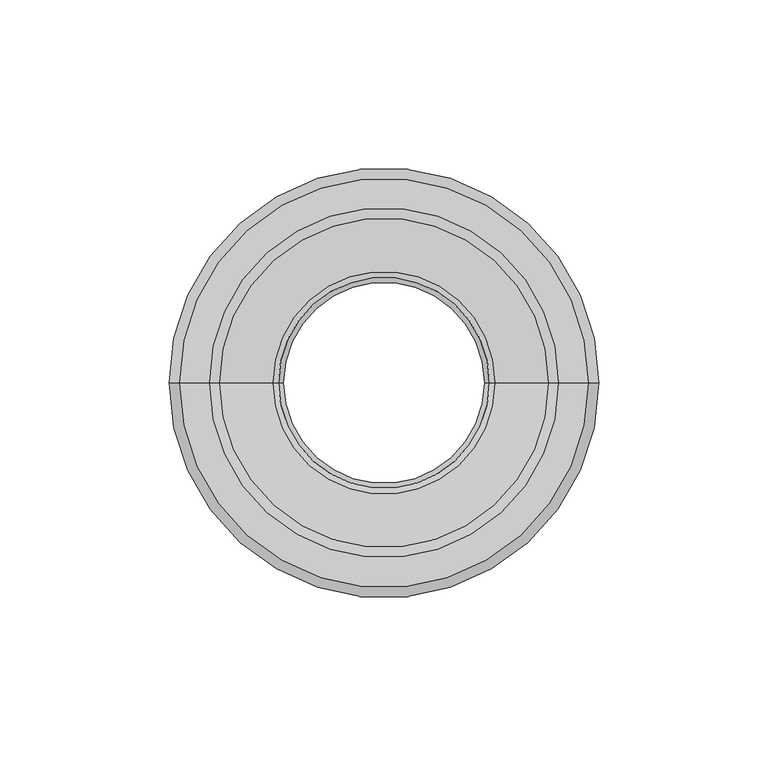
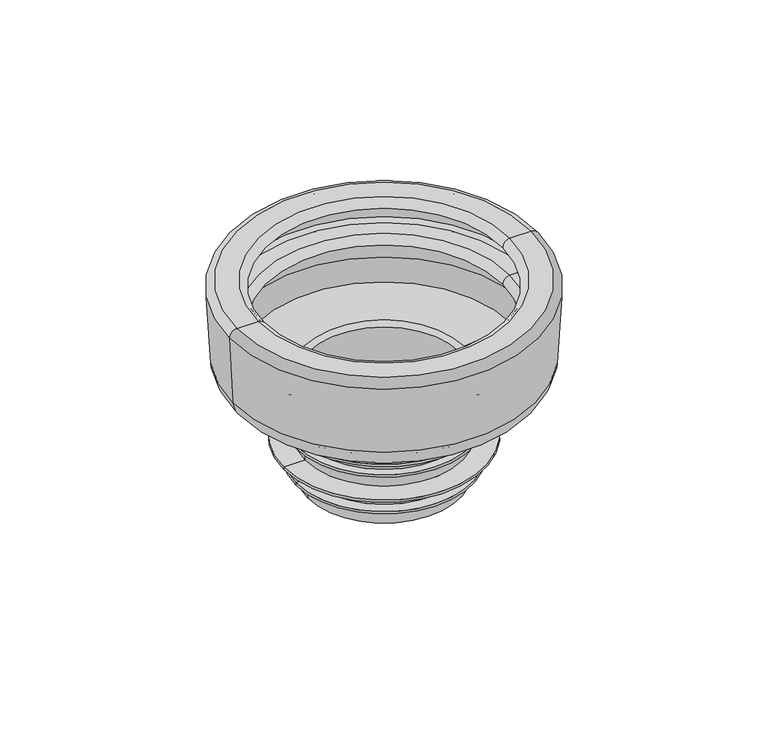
"""IFC4 building model written with IfcOpenShell, lengths in millimetres: sanitary terminal geometry, RSen_52_PIF_UN_closet connector no.5_wisa : closet connector_wisa_no 5 white."""

from ifc_helpers import new_model, si_unit, point, frame, origin, place, context, project, spatial, polyline, circle_curve, ellipse_curve, trimmed, source, transform, mapped, element, save
from ifc_brep_helpers import plane_surface, cylinder_surface, revolved_surface, advanced_brep


def sanitary_terminal_d6526a82(model_context):
    return source(origin(), model_context, "Body", "AdvancedBrep", [
        advanced_brep(
        [(-63.5845482, 0.0, -0.1570079), (63.5845482, 0.0, -0.1570079), (62.0952036, 0.0, -28.5753971), (-62.0952036, 0.0, -28.5753971), (-60.5886596, 0.0, 3.0), (60.5886596, 0.0, 3.0), (-51.75, 0.0, 3.0), (51.75, 0.0, 3.0), (-48.75, 0.0, 0.0), (48.75, 0.0, 0.0), (-49.55, 0.0, 0.0), (49.55, 0.0, 0.0), (-52.1491511, 0.0, 2.4665023), (52.1491511, 0.0, 2.4665023), (-59.2332885, 0.0, 2.0952384), (59.2332885, 0.0, 2.0952384), (-60.6178768, 0.0, 0.5574973), (60.6178768, 0.0, 0.5574973), (-59.9827203, 0.0, -11.5620101), (59.9827203, 0.0, -11.5620101), (-58.4673952, 0.0, -13.0), (58.4673952, 0.0, -13.0), (-51.75, 0.0, -13.0), (51.75, 0.0, -13.0), (-48.75, 0.0, -16.0), (48.75, 0.0, -16.0), (-49.55, 0.0, -16.0), (49.55, 0.0, -16.0), (-52.1491511, 0.0, -13.5334977), (52.1491511, 0.0, -13.5334977), (-58.3410591, 0.0, -13.8580018), (58.3410591, 0.0, -13.8580018), (-59.7787142, 0.0, -15.4546796), (59.7787142, 0.0, -15.4546796), (-59.099315, 0.0, -28.4183893), (59.099315, 0.0, -28.4183893), (-52.9619936, 0.0, -34.9998606), (52.9619936, 0.0, -34.9998606), (-32.9547984, 0.0, -37.4564353), (32.9547984, 0.0, -37.4564353), (-31.2038472, 0.0, -39.3672632), (31.2038472, 0.0, -39.3672632), (-29.75, 0.0, -81.0), (29.75, 0.0, -81.0), (-31.25, 0.0, -81.0), (31.25, 0.0, -81.0), (-31.25, 0.0, -73.5), (31.25, 0.0, -73.5), (-36.25, 0.0, -73.5), (36.25, 0.0, -73.5), (-36.25, 0.0, -72.5), (36.25, 0.0, -72.5), (-31.75, 0.0, -72.5), (31.75, 0.0, -72.5), (-31.75, 0.0, -65.0), (31.75, 0.0, -65.0), (-41.25, 0.0, -65.0), (41.25, 0.0, -65.0), (-41.25, 0.0, -64.0), (41.25, 0.0, -64.0), (-32.5, 0.0, -64.0), (32.5, 0.0, -64.0), (-32.5, 0.0, -57.5), (32.5, 0.0, -57.5), (-36.25, 0.0, -57.5), (36.25, 0.0, -57.5), (-36.25, 0.0, -56.5), (36.25, 0.0, -56.5), (-32.95, 0.0, -56.5), (32.95, 0.0, -56.5), (-32.95, 0.0, -49.5), (32.95, 0.0, -49.5), (-41.25, 0.0, -49.5), (41.25, 0.0, -49.5), (-41.25, 0.0, -48.5), (41.25, 0.0, -48.5), (-33.25, 0.0, -48.5), (33.25, 0.0, -48.5), (-33.25, 0.0, -43.0), (33.25, 0.0, -43.0), (-36.25, 0.0, -40.0), (36.25, 0.0, -40.0), (-45.0, 0.0, -40.0), (45.0, 0.0, -40.0), (-45.0, 0.0, -39.0), (45.0, 0.0, -39.0), (-53.3276016, 0.0, -37.9774991), (53.3276016, 0.0, -37.9774991)],
        [
            (0, 1, circle_curve(frame((0.0, 0.0, -0.1570079), z_axis=(0.0, 0.0, -1.0), x_axis=(1.0, 0.0, 0.0)), 63.5845482)),
            (1, 2),
            (2, 3, circle_curve(frame((0.0, 0.0, -28.5753971), z_axis=(0.0, 0.0, 1.0), x_axis=(1.0, 0.0, 0.0)), 62.0952036)),
            (3, 0),
            (1, 0, circle_curve(frame((0.0, 0.0, -0.1570079), z_axis=(0.0, 0.0, -1.0), x_axis=(1.0, 0.0, 0.0)), 63.5845482)),
            (3, 2, circle_curve(frame((0.0, 0.0, -28.5753971), z_axis=(0.0, 0.0, 1.0), x_axis=(1.0, 0.0, 0.0)), 62.0952036)),
            (4, 5, circle_curve(frame((0.0, 0.0, 3.0), z_axis=(0.0, 0.0, -1.0), x_axis=(1.0, 0.0, 0.0)), 60.5886596)),
            (5, 1, circle_curve(frame((60.5886596, 0.0, 0.0), z_axis=(0.0, 1.0, 0.0), x_axis=(1.0, 0.0, 0.0)), 3.0)),
            (0, 4, circle_curve(frame((-60.5886596, 0.0, 0.0), z_axis=(0.0, 1.0, 0.0), x_axis=(-1.0, 0.0, 0.0)), 3.0)),
            (5, 4, circle_curve(frame((0.0, 0.0, 3.0), z_axis=(0.0, 0.0, -1.0), x_axis=(1.0, 0.0, 0.0)), 60.5886596)),
            (6, 7, circle_curve(frame((0.0, 0.0, 3.0), z_axis=(0.0, 0.0, -1.0), x_axis=(1.0, 0.0, 0.0)), 51.75)),
            (7, 5),
            (4, 6),
            (7, 6, circle_curve(frame((0.0, 0.0, 3.0), z_axis=(0.0, 0.0, -1.0), x_axis=(1.0, 0.0, 0.0)), 51.75)),
            (8, 9, circle_curve(frame((0.0, 0.0, 0.0), z_axis=(0.0, 0.0, -1.0), x_axis=(1.0, 0.0, 0.0)), 48.75)),
            (9, 7, circle_curve(frame((51.75, 0.0, 0.0), z_axis=(0.0, 1.0, 0.0), x_axis=(1.0, 0.0, 0.0)), 3.0)),
            (6, 8, circle_curve(frame((-51.75, 0.0, 0.0), z_axis=(0.0, 1.0, 0.0), x_axis=(-1.0, 0.0, 0.0)), 3.0)),
            (9, 8, circle_curve(frame((0.0, 0.0, 0.0), z_axis=(0.0, 0.0, -1.0), x_axis=(1.0, 0.0, 0.0)), 48.75)),
            (10, 11, circle_curve(frame((0.0, 0.0, 0.0), z_axis=(0.0, 0.0, -1.0), x_axis=(1.0, 0.0, 0.0)), 49.55)),
            (11, 9),
            (8, 10),
            (11, 10, circle_curve(frame((0.0, 0.0, 0.0), z_axis=(0.0, 0.0, -1.0), x_axis=(1.0, 0.0, 0.0)), 49.55)),
            (12, 13, circle_curve(frame((0.0, 0.0, 2.4665023), z_axis=(0.0, 0.0, -1.0), x_axis=(1.0, 0.0, 0.0)), 52.1491511)),
            (13, 11, circle_curve(frame((52.0198872, 0.0, 0.0), z_axis=(0.0, -1.0, 0.0), x_axis=(1.0, 0.0, 0.0)), 2.4698872)),
            (10, 12, circle_curve(frame((-52.0198872, 0.0, 0.0), z_axis=(0.0, -1.0, 0.0), x_axis=(-1.0, 0.0, 0.0)), 2.4698872)),
            (13, 12, circle_curve(frame((0.0, 0.0, 2.4665023), z_axis=(0.0, 0.0, -1.0), x_axis=(1.0, 0.0, 0.0)), 52.1491511)),
            (14, 15, circle_curve(frame((0.0, 0.0, 2.0952384), z_axis=(0.0, 0.0, -1.0), x_axis=(1.0, 0.0, 0.0)), 59.2332885)),
            (15, 13),
            (12, 14),
            (15, 14, circle_curve(frame((0.0, 0.0, 2.0952384), z_axis=(0.0, 0.0, -1.0), x_axis=(1.0, 0.0, 0.0)), 59.2332885)),
            (16, 17, circle_curve(frame((0.0, 0.0, 0.5574973), z_axis=(0.0, 0.0, -1.0), x_axis=(1.0, 0.0, 0.0)), 60.6178768)),
            (17, 15, circle_curve(frame((59.1567121, 0.0, 0.6340737), z_axis=(0.0, -1.0, 0.0), x_axis=(1.0, 0.0, 0.0)), 1.46317)),
            (14, 16, circle_curve(frame((-59.1567121, 0.0, 0.6340737), z_axis=(0.0, -1.0, 0.0), x_axis=(-1.0, 0.0, 0.0)), 1.46317)),
            (17, 16, circle_curve(frame((0.0, 0.0, 0.5574973), z_axis=(0.0, 0.0, -1.0), x_axis=(1.0, 0.0, 0.0)), 60.6178768)),
            (18, 19, circle_curve(frame((0.0, 0.0, -11.5620101), z_axis=(0.0, 0.0, -1.0), x_axis=(1.0, 0.0, 0.0)), 59.9827203)),
            (19, 17),
            (16, 18),
            (19, 18, circle_curve(frame((0.0, 0.0, -11.5620101), z_axis=(0.0, 0.0, -1.0), x_axis=(1.0, 0.0, 0.0)), 59.9827203)),
            (20, 21, circle_curve(frame((0.0, 0.0, -13.0), z_axis=(0.0, 0.0, -1.0), x_axis=(1.0, 0.0, 0.0)), 58.4673952)),
            (21, 19, circle_curve(frame((58.4673952, 0.0, -11.4825953), z_axis=(0.0, -1.0, 0.0), x_axis=(1.0, 0.0, 0.0)), 1.5174047)),
            (18, 20, circle_curve(frame((-58.4673952, 0.0, -11.4825953), z_axis=(0.0, -1.0, 0.0), x_axis=(-1.0, 0.0, 0.0)), 1.5174047)),
            (21, 20, circle_curve(frame((0.0, 0.0, -13.0), z_axis=(0.0, 0.0, -1.0), x_axis=(1.0, 0.0, 0.0)), 58.4673952)),
            (22, 23, circle_curve(frame((0.0, 0.0, -13.0), z_axis=(0.0, 0.0, -1.0), x_axis=(1.0, 0.0, 0.0)), 51.75)),
            (23, 21),
            (20, 22),
            (23, 22, circle_curve(frame((0.0, 0.0, -13.0), z_axis=(0.0, 0.0, -1.0), x_axis=(1.0, 0.0, 0.0)), 51.75)),
            (24, 25, circle_curve(frame((0.0, 0.0, -16.0), z_axis=(0.0, 0.0, -1.0), x_axis=(1.0, 0.0, 0.0)), 48.75)),
            (25, 23, circle_curve(frame((51.75, 0.0, -16.0), z_axis=(0.0, 1.0, 0.0), x_axis=(1.0, 0.0, 0.0)), 3.0)),
            (22, 24, circle_curve(frame((-51.75, 0.0, -16.0), z_axis=(0.0, 1.0, 0.0), x_axis=(-1.0, 0.0, 0.0)), 3.0)),
            (25, 24, circle_curve(frame((0.0, 0.0, -16.0), z_axis=(0.0, 0.0, -1.0), x_axis=(1.0, 0.0, 0.0)), 48.75)),
            (26, 27, circle_curve(frame((0.0, 0.0, -16.0), z_axis=(0.0, 0.0, -1.0), x_axis=(1.0, 0.0, 0.0)), 49.55)),
            (27, 25),
            (24, 26),
            (27, 26, circle_curve(frame((0.0, 0.0, -16.0), z_axis=(0.0, 0.0, -1.0), x_axis=(1.0, 0.0, 0.0)), 49.55)),
            (28, 29, circle_curve(frame((0.0, 0.0, -13.5334977), z_axis=(0.0, 0.0, -1.0), x_axis=(1.0, 0.0, 0.0)), 52.1491511)),
            (29, 27, circle_curve(frame((52.0198872, 0.0, -16.0), z_axis=(0.0, -1.0, 0.0), x_axis=(1.0, 0.0, 0.0)), 2.4698872)),
            (26, 28, circle_curve(frame((-52.0198872, 0.0, -16.0), z_axis=(0.0, -1.0, 0.0), x_axis=(-1.0, 0.0, 0.0)), 2.4698872)),
            (29, 28, circle_curve(frame((0.0, 0.0, -13.5334977), z_axis=(0.0, 0.0, -1.0), x_axis=(1.0, 0.0, 0.0)), 52.1491511)),
            (30, 31, circle_curve(frame((0.0, 0.0, -13.8580018), z_axis=(0.0, 0.0, -1.0), x_axis=(1.0, 0.0, 0.0)), 58.3410591)),
            (31, 29),
            (28, 30),
            (31, 30, circle_curve(frame((0.0, 0.0, -13.8580018), z_axis=(0.0, 0.0, -1.0), x_axis=(1.0, 0.0, 0.0)), 58.3410591)),
            (32, 33, circle_curve(frame((0.0, 0.0, -15.4546796), z_axis=(0.0, 0.0, -1.0), x_axis=(1.0, 0.0, 0.0)), 59.7787142)),
            (33, 31, circle_curve(frame((58.2615477, 0.0, -15.3751683), z_axis=(0.0, -1.0, 0.0), x_axis=(1.0, 0.0, 0.0)), 1.5192485)),
            (30, 32, circle_curve(frame((-58.2615477, 0.0, -15.3751683), z_axis=(0.0, -1.0, 0.0), x_axis=(-1.0, 0.0, 0.0)), 1.5192485)),
            (33, 32, circle_curve(frame((0.0, 0.0, -15.4546796), z_axis=(0.0, 0.0, -1.0), x_axis=(1.0, 0.0, 0.0)), 59.7787142)),
            (34, 35, circle_curve(frame((0.0, 0.0, -28.4183893), z_axis=(0.0, 0.0, -1.0), x_axis=(1.0, 0.0, 0.0)), 59.099315)),
            (35, 33),
            (32, 34),
            (35, 34, circle_curve(frame((0.0, 0.0, -28.4183893), z_axis=(0.0, 0.0, -1.0), x_axis=(1.0, 0.0, 0.0)), 59.099315)),
            (36, 37, circle_curve(frame((0.0, 0.0, -34.9998606), z_axis=(0.0, 0.0, -1.0), x_axis=(1.0, 0.0, 0.0)), 52.9619936)),
            (37, 35, circle_curve(frame((52.1089082, 0.0, -28.0520376), z_axis=(0.0, -1.0, 0.0), x_axis=(1.0, 0.0, 0.0)), 7.0)),
            (34, 36, circle_curve(frame((-52.1089082, 0.0, -28.0520376), z_axis=(0.0, -1.0, 0.0), x_axis=(-1.0, 0.0, 0.0)), 7.0)),
            (37, 36, circle_curve(frame((0.0, 0.0, -34.9998606), z_axis=(0.0, 0.0, -1.0), x_axis=(1.0, 0.0, 0.0)), 52.9619936)),
            (38, 39, circle_curve(frame((0.0, 0.0, -37.4564353), z_axis=(0.0, 0.0, -1.0), x_axis=(1.0, 0.0, 0.0)), 32.9547984)),
            (39, 37),
            (36, 38),
            (39, 38, circle_curve(frame((0.0, 0.0, -37.4564353), z_axis=(0.0, 0.0, -1.0), x_axis=(1.0, 0.0, 0.0)), 32.9547984)),
            (40, 41, circle_curve(frame((0.0, 0.0, -39.3672632), z_axis=(0.0, 0.0, -1.0), x_axis=(1.0, 0.0, 0.0)), 31.2038472)),
            (41, 39, circle_curve(frame((33.1979688, 0.0, -39.4368995), z_axis=(0.0, 1.0, 0.0), x_axis=(1.0, 0.0, 0.0)), 1.9953371)),
            (38, 40, circle_curve(frame((-33.1979688, 0.0, -39.4368995), z_axis=(0.0, 1.0, 0.0), x_axis=(-1.0, 0.0, 0.0)), 1.9953371)),
            (41, 40, circle_curve(frame((0.0, 0.0, -39.3672632), z_axis=(0.0, 0.0, -1.0), x_axis=(1.0, 0.0, 0.0)), 31.2038472)),
            (42, 43, circle_curve(frame((0.0, 0.0, -81.0), z_axis=(0.0, 0.0, -1.0), x_axis=(1.0, 0.0, 0.0)), 29.75)),
            (43, 41),
            (40, 42),
            (43, 42, circle_curve(frame((0.0, 0.0, -81.0), z_axis=(0.0, 0.0, -1.0), x_axis=(1.0, 0.0, 0.0)), 29.75)),
            (44, 45, circle_curve(frame((0.0, 0.0, -81.0), z_axis=(0.0, 0.0, -1.0), x_axis=(1.0, 0.0, 0.0)), 31.25)),
            (45, 43),
            (42, 44),
            (45, 44, circle_curve(frame((0.0, 0.0, -81.0), z_axis=(0.0, 0.0, -1.0), x_axis=(1.0, 0.0, 0.0)), 31.25)),
            (46, 47, circle_curve(frame((0.0, 0.0, -73.5), z_axis=(0.0, 0.0, -1.0), x_axis=(1.0, 0.0, 0.0)), 31.25)),
            (47, 45),
            (44, 46),
            (47, 46, circle_curve(frame((0.0, 0.0, -73.5), z_axis=(0.0, 0.0, -1.0), x_axis=(1.0, 0.0, 0.0)), 31.25)),
            (48, 49, circle_curve(frame((0.0, 0.0, -73.5), z_axis=(0.0, 0.0, -1.0), x_axis=(1.0, 0.0, 0.0)), 36.25)),
            (49, 47),
            (46, 48),
            (49, 48, circle_curve(frame((0.0, 0.0, -73.5), z_axis=(0.0, 0.0, -1.0), x_axis=(1.0, 0.0, 0.0)), 36.25)),
            (50, 51, circle_curve(frame((0.0, 0.0, -72.5), z_axis=(0.0, 0.0, -1.0), x_axis=(1.0, 0.0, 0.0)), 36.25)),
            (51, 49),
            (48, 50),
            (51, 50, circle_curve(frame((0.0, 0.0, -72.5), z_axis=(0.0, 0.0, -1.0), x_axis=(1.0, 0.0, 0.0)), 36.25)),
            (52, 53, circle_curve(frame((0.0, 0.0, -72.5), z_axis=(0.0, 0.0, -1.0), x_axis=(1.0, 0.0, 0.0)), 31.75)),
            (53, 51),
            (50, 52),
            (53, 52, circle_curve(frame((0.0, 0.0, -72.5), z_axis=(0.0, 0.0, -1.0), x_axis=(1.0, 0.0, 0.0)), 31.75)),
            (54, 55, circle_curve(frame((0.0, 0.0, -65.0), z_axis=(0.0, 0.0, -1.0), x_axis=(1.0, 0.0, 0.0)), 31.75)),
            (55, 53),
            (52, 54),
            (55, 54, circle_curve(frame((0.0, 0.0, -65.0), z_axis=(0.0, 0.0, -1.0), x_axis=(1.0, 0.0, 0.0)), 31.75)),
            (56, 57, circle_curve(frame((0.0, 0.0, -65.0), z_axis=(0.0, 0.0, -1.0), x_axis=(1.0, 0.0, 0.0)), 41.25)),
            (57, 55),
            (54, 56),
            (57, 56, circle_curve(frame((0.0, 0.0, -65.0), z_axis=(0.0, 0.0, -1.0), x_axis=(1.0, 0.0, 0.0)), 41.25)),
            (58, 59, circle_curve(frame((0.0, 0.0, -64.0), z_axis=(0.0, 0.0, -1.0), x_axis=(1.0, 0.0, 0.0)), 41.25)),
            (59, 57),
            (56, 58),
            (59, 58, circle_curve(frame((0.0, 0.0, -64.0), z_axis=(0.0, 0.0, -1.0), x_axis=(1.0, 0.0, 0.0)), 41.25)),
            (60, 61, circle_curve(frame((0.0, 0.0, -64.0), z_axis=(0.0, 0.0, -1.0), x_axis=(1.0, 0.0, 0.0)), 32.5)),
            (61, 59),
            (58, 60),
            (61, 60, circle_curve(frame((0.0, 0.0, -64.0), z_axis=(0.0, 0.0, -1.0), x_axis=(1.0, 0.0, 0.0)), 32.5)),
            (62, 63, circle_curve(frame((0.0, 0.0, -57.5), z_axis=(0.0, 0.0, -1.0), x_axis=(1.0, 0.0, 0.0)), 32.5)),
            (63, 61),
            (60, 62),
            (63, 62, circle_curve(frame((0.0, 0.0, -57.5), z_axis=(0.0, 0.0, -1.0), x_axis=(1.0, 0.0, 0.0)), 32.5)),
            (64, 65, circle_curve(frame((0.0, 0.0, -57.5), z_axis=(0.0, 0.0, -1.0), x_axis=(1.0, 0.0, 0.0)), 36.25)),
            (65, 63),
            (62, 64),
            (65, 64, circle_curve(frame((0.0, 0.0, -57.5), z_axis=(0.0, 0.0, -1.0), x_axis=(1.0, 0.0, 0.0)), 36.25)),
            (66, 67, circle_curve(frame((0.0, 0.0, -56.5), z_axis=(0.0, 0.0, -1.0), x_axis=(1.0, 0.0, 0.0)), 36.25)),
            (67, 65),
            (64, 66),
            (67, 66, circle_curve(frame((0.0, 0.0, -56.5), z_axis=(0.0, 0.0, -1.0), x_axis=(1.0, 0.0, 0.0)), 36.25)),
            (68, 69, circle_curve(frame((0.0, 0.0, -56.5), z_axis=(0.0, 0.0, -1.0), x_axis=(1.0, 0.0, 0.0)), 32.95)),
            (69, 67),
            (66, 68),
            (69, 68, circle_curve(frame((0.0, 0.0, -56.5), z_axis=(0.0, 0.0, -1.0), x_axis=(1.0, 0.0, 0.0)), 32.95)),
            (70, 71, circle_curve(frame((0.0, 0.0, -49.5), z_axis=(0.0, 0.0, -1.0), x_axis=(1.0, 0.0, 0.0)), 32.95)),
            (71, 69),
            (68, 70),
            (71, 70, circle_curve(frame((0.0, 0.0, -49.5), z_axis=(0.0, 0.0, -1.0), x_axis=(1.0, 0.0, 0.0)), 32.95)),
            (72, 73, circle_curve(frame((0.0, 0.0, -49.5), z_axis=(0.0, 0.0, -1.0), x_axis=(1.0, 0.0, 0.0)), 41.25)),
            (73, 71),
            (70, 72),
            (73, 72, circle_curve(frame((0.0, 0.0, -49.5), z_axis=(0.0, 0.0, -1.0), x_axis=(1.0, 0.0, 0.0)), 41.25)),
            (74, 75, circle_curve(frame((0.0, 0.0, -48.5), z_axis=(0.0, 0.0, -1.0), x_axis=(1.0, 0.0, 0.0)), 41.25)),
            (75, 73),
            (72, 74),
            (75, 74, circle_curve(frame((0.0, 0.0, -48.5), z_axis=(0.0, 0.0, -1.0), x_axis=(1.0, 0.0, 0.0)), 41.25)),
            (76, 77, circle_curve(frame((0.0, 0.0, -48.5), z_axis=(0.0, 0.0, -1.0), x_axis=(1.0, 0.0, 0.0)), 33.25)),
            (77, 75),
            (74, 76),
            (77, 76, circle_curve(frame((0.0, 0.0, -48.5), z_axis=(0.0, 0.0, -1.0), x_axis=(1.0, 0.0, 0.0)), 33.25)),
            (78, 79, circle_curve(frame((0.0, 0.0, -43.0), z_axis=(0.0, 0.0, -1.0), x_axis=(1.0, 0.0, 0.0)), 33.25)),
            (79, 77),
            (76, 78),
            (79, 78, circle_curve(frame((0.0, 0.0, -43.0), z_axis=(0.0, 0.0, -1.0), x_axis=(1.0, 0.0, 0.0)), 33.25)),
            (80, 81, circle_curve(frame((0.0, 0.0, -40.0), z_axis=(0.0, 0.0, -1.0), x_axis=(1.0, 0.0, 0.0)), 36.25)),
            (81, 79, circle_curve(frame((36.25, 0.0, -43.0), z_axis=(0.0, -1.0, 0.0), x_axis=(1.0, 0.0, 0.0)), 3.0)),
            (78, 80, circle_curve(frame((-36.25, 0.0, -43.0), z_axis=(0.0, -1.0, 0.0), x_axis=(-1.0, 0.0, 0.0)), 3.0)),
            (81, 80, circle_curve(frame((0.0, 0.0, -40.0), z_axis=(0.0, 0.0, -1.0), x_axis=(1.0, 0.0, 0.0)), 36.25)),
            (82, 83, circle_curve(frame((0.0, 0.0, -40.0), z_axis=(0.0, 0.0, -1.0), x_axis=(1.0, 0.0, 0.0)), 45.0)),
            (83, 81),
            (80, 82),
            (83, 82, circle_curve(frame((0.0, 0.0, -40.0), z_axis=(0.0, 0.0, -1.0), x_axis=(1.0, 0.0, 0.0)), 45.0)),
            (84, 85, circle_curve(frame((0.0, 0.0, -39.0), z_axis=(0.0, 0.0, -1.0), x_axis=(1.0, 0.0, 0.0)), 45.0)),
            (85, 83),
            (82, 84),
            (85, 84, circle_curve(frame((0.0, 0.0, -39.0), z_axis=(0.0, 0.0, -1.0), x_axis=(1.0, 0.0, 0.0)), 45.0)),
            (86, 87, circle_curve(frame((0.0, 0.0, -37.9774991), z_axis=(0.0, 0.0, -1.0), x_axis=(1.0, 0.0, 0.0)), 53.3276016)),
            (87, 85),
            (84, 86),
            (87, 86, circle_curve(frame((0.0, 0.0, -37.9774991), z_axis=(0.0, 0.0, -1.0), x_axis=(1.0, 0.0, 0.0)), 53.3276016)),
            (2, 87, circle_curve(frame((52.1089082, 0.0, -28.0520376), z_axis=(0.0, 1.0, 0.0), x_axis=(1.0, 0.0, 0.0)), 10.0)),
            (86, 3, circle_curve(frame((-52.1089082, 0.0, -28.0520376), z_axis=(0.0, 1.0, 0.0), x_axis=(-1.0, 0.0, 0.0)), 10.0)),
        ],
        [
            revolved_surface(polyline([(62.0952036, 0.0, -28.5753971), (63.5845482, 0.0, -0.1570079)]), (0.0, 0.0, 3.0), (0.0, 0.0, 1.0)),
            revolved_surface(trimmed(ellipse_curve(frame((60.5886596, 0.0, 0.0), z_axis=(0.0, -1.0, 0.0), x_axis=(1.0, 0.0, 0.0)), 3.0, 3.0), [point((63.5845482, 0.0, -0.1570079))], [point((60.5886596, 0.0, 3.0))], True, "CARTESIAN"), (0.0, 0.0, 3.0), (0.0, 0.0, 1.0)),
            plane_surface(frame((0.0, 0.0, 3.0), z_axis=(0.0, 0.0, 1.0), x_axis=(1.0, 0.0, 0.0))),
            revolved_surface(trimmed(ellipse_curve(frame((51.75, 0.0, 0.0), z_axis=(0.0, -1.0, 0.0), x_axis=(1.0, 0.0, 0.0)), 3.0, 3.0), [point((51.75, 0.0, 3.0))], [point((48.75, 0.0, 0.0))], True, "CARTESIAN"), (0.0, 0.0, 3.0), (0.0, 0.0, 1.0)),
            plane_surface(frame((0.0, 0.0, 0.0), z_axis=(0.0, 0.0, -1.0), x_axis=(1.0, 0.0, 0.0))),
            revolved_surface(trimmed(ellipse_curve(frame((52.0198872, 0.0, 0.0), z_axis=(0.0, 1.0, 0.0), x_axis=(1.0, 0.0, 0.0)), 2.4698872, 2.4698872), [point((49.55, 0.0, 0.0))], [point((52.1491511, 0.0, 2.4665023))], True, "CARTESIAN"), (0.0, 0.0, 3.0), (0.0, 0.0, 1.0)),
            revolved_surface(polyline([(52.1491511, 0.0, 2.4665023), (59.2332885, 0.0, 2.0952384)]), (0.0, 0.0, 3.0), (0.0, 0.0, 1.0)),
            revolved_surface(trimmed(ellipse_curve(frame((59.1567121, 0.0, 0.6340737), z_axis=(0.0, 1.0, 0.0), x_axis=(1.0, 0.0, 0.0)), 1.46317, 1.46317), [point((59.2332885, 0.0, 2.0952384))], [point((60.6178768, 0.0, 0.5574973))], True, "CARTESIAN"), (0.0, 0.0, 3.0), (0.0, 0.0, 1.0)),
            revolved_surface(polyline([(60.6178768, 0.0, 0.5574973), (59.9827203, 0.0, -11.5620101)]), (0.0, 0.0, 3.0), (0.0, 0.0, 1.0)),
            revolved_surface(trimmed(ellipse_curve(frame((58.4673952, 0.0, -11.4825953), z_axis=(0.0, 1.0, 0.0), x_axis=(1.0, 0.0, 0.0)), 1.5174047, 1.5174047), [point((59.9827203, 0.0, -11.5620101))], [point((58.4673952, 0.0, -13.0))], True, "CARTESIAN"), (0.0, 0.0, 3.0), (0.0, 0.0, 1.0)),
            plane_surface(frame((0.0, 0.0, -13.0), z_axis=(0.0, 0.0, 1.0), x_axis=(1.0, 0.0, 0.0))),
            revolved_surface(trimmed(ellipse_curve(frame((51.75, 0.0, -16.0), z_axis=(0.0, -1.0, 0.0), x_axis=(1.0, 0.0, 0.0)), 3.0, 3.0), [point((51.75, 0.0, -13.0))], [point((48.75, 0.0, -16.0))], True, "CARTESIAN"), (0.0, 0.0, 3.0), (0.0, 0.0, 1.0)),
            plane_surface(frame((0.0, 0.0, -16.0), z_axis=(0.0, 0.0, -1.0), x_axis=(1.0, 0.0, 0.0))),
            revolved_surface(trimmed(ellipse_curve(frame((52.0198872, 0.0, -16.0), z_axis=(0.0, 1.0, 0.0), x_axis=(1.0, 0.0, 0.0)), 2.4698872, 2.4698872), [point((49.55, 0.0, -16.0))], [point((52.1491511, 0.0, -13.5334977))], True, "CARTESIAN"), (0.0, 0.0, 3.0), (0.0, 0.0, 1.0)),
            revolved_surface(polyline([(52.1491511, 0.0, -13.5334977), (58.3410591, 0.0, -13.8580018)]), (0.0, 0.0, 3.0), (0.0, 0.0, 1.0)),
            revolved_surface(trimmed(ellipse_curve(frame((58.2615477, 0.0, -15.3751683), z_axis=(0.0, 1.0, 0.0), x_axis=(1.0, 0.0, 0.0)), 1.5192485, 1.5192485), [point((58.3410591, 0.0, -13.8580018))], [point((59.7787142, 0.0, -15.4546796))], True, "CARTESIAN"), (0.0, 0.0, 3.0), (0.0, 0.0, 1.0)),
            revolved_surface(polyline([(59.7787142, 0.0, -15.4546796), (59.099315, 0.0, -28.4183893)]), (0.0, 0.0, 3.0), (0.0, 0.0, 1.0)),
            revolved_surface(trimmed(ellipse_curve(frame((52.1089082, 0.0, -28.0520376), z_axis=(0.0, 1.0, 0.0), x_axis=(1.0, 0.0, 0.0)), 7.0, 7.0), [point((59.099315, 0.0, -28.4183893))], [point((52.9619936, 0.0, -34.9998606))], True, "CARTESIAN"), (0.0, 0.0, 3.0), (0.0, 0.0, 1.0)),
            revolved_surface(polyline([(52.9619936, 0.0, -34.9998606), (32.9547984, 0.0, -37.4564353)]), (0.0, 0.0, 3.0), (0.0, 0.0, 1.0)),
            revolved_surface(trimmed(ellipse_curve(frame((33.1979688, 0.0, -39.4368995), z_axis=(0.0, -1.0, 0.0), x_axis=(1.0, 0.0, 0.0)), 1.9953371, 1.9953371), [point((32.9547984, 0.0, -37.4564353))], [point((31.2038472, 0.0, -39.3672632))], True, "CARTESIAN"), (0.0, 0.0, 3.0), (0.0, 0.0, 1.0)),
            revolved_surface(polyline([(31.2038472, 0.0, -39.3672632), (29.75, 0.0, -81.0)]), (0.0, 0.0, 3.0), (0.0, 0.0, 1.0)),
            plane_surface(frame((0.0, 0.0, -81.0), z_axis=(0.0, 0.0, -1.0), x_axis=(1.0, 0.0, 0.0))),
            cylinder_surface(frame((0.0, 0.0, 3.0), z_axis=(0.0, 0.0, 1.0), x_axis=(1.0, 0.0, 0.0)), 31.25),
            plane_surface(frame((0.0, 0.0, -73.5), z_axis=(0.0, 0.0, -1.0), x_axis=(1.0, 0.0, 0.0))),
            cylinder_surface(frame((0.0, 0.0, 3.0), z_axis=(0.0, 0.0, 1.0), x_axis=(1.0, 0.0, 0.0)), 36.25),
            plane_surface(frame((0.0, 0.0, -72.5), z_axis=(0.0, 0.0, 1.0), x_axis=(1.0, 0.0, 0.0))),
            cylinder_surface(frame((0.0, 0.0, 3.0), z_axis=(0.0, 0.0, 1.0), x_axis=(1.0, 0.0, 0.0)), 31.75),
            plane_surface(frame((0.0, 0.0, -65.0), z_axis=(0.0, 0.0, -1.0), x_axis=(1.0, 0.0, 0.0))),
            cylinder_surface(frame((0.0, 0.0, 3.0), z_axis=(0.0, 0.0, 1.0), x_axis=(1.0, 0.0, 0.0)), 41.25),
            plane_surface(frame((0.0, 0.0, -64.0), z_axis=(0.0, 0.0, 1.0), x_axis=(1.0, 0.0, 0.0))),
            cylinder_surface(frame((0.0, 0.0, 3.0), z_axis=(0.0, 0.0, 1.0), x_axis=(1.0, 0.0, 0.0)), 32.5),
            plane_surface(frame((0.0, 0.0, -57.5), z_axis=(0.0, 0.0, -1.0), x_axis=(1.0, 0.0, 0.0))),
            plane_surface(frame((0.0, 0.0, -56.5), z_axis=(0.0, 0.0, 1.0), x_axis=(1.0, 0.0, 0.0))),
            cylinder_surface(frame((0.0, 0.0, 3.0), z_axis=(0.0, 0.0, 1.0), x_axis=(1.0, 0.0, 0.0)), 32.95),
            plane_surface(frame((0.0, 0.0, -49.5), z_axis=(0.0, 0.0, -1.0), x_axis=(1.0, 0.0, 0.0))),
            plane_surface(frame((0.0, 0.0, -48.5), z_axis=(0.0, 0.0, 1.0), x_axis=(1.0, 0.0, 0.0))),
            cylinder_surface(frame((0.0, 0.0, 3.0), z_axis=(0.0, 0.0, 1.0), x_axis=(1.0, 0.0, 0.0)), 33.25),
            revolved_surface(trimmed(ellipse_curve(frame((36.25, 0.0, -43.0), z_axis=(0.0, 1.0, 0.0), x_axis=(1.0, 0.0, 0.0)), 3.0, 3.0), [point((33.25, 0.0, -43.0))], [point((36.25, 0.0, -40.0))], True, "CARTESIAN"), (0.0, 0.0, 3.0), (0.0, 0.0, 1.0)),
            plane_surface(frame((0.0, 0.0, -40.0), z_axis=(0.0, 0.0, -1.0), x_axis=(1.0, 0.0, 0.0))),
            cylinder_surface(frame((0.0, 0.0, 3.0), z_axis=(0.0, 0.0, 1.0), x_axis=(1.0, 0.0, 0.0)), 45.0),
            revolved_surface(polyline([(45.0, 0.0, -39.0), (53.3276016, 0.0, -37.9774991)]), (0.0, 0.0, 3.0), (0.0, 0.0, 1.0)),
            revolved_surface(trimmed(ellipse_curve(frame((52.1089082, 0.0, -28.0520376), z_axis=(0.0, -1.0, 0.0), x_axis=(1.0, 0.0, 0.0)), 10.0, 10.0), [point((53.3276016, 0.0, -37.9774991))], [point((62.0952036, 0.0, -28.5753971))], True, "CARTESIAN"), (0.0, 0.0, 3.0), (0.0, 0.0, 1.0)),
        ],
        [
            (0, [[1, 2, 3, 4]]),
            (0, [[5, -4, 6, -2]]),
            (1, [[7, 8, -1, 9]]),
            (1, [[10, -9, -5, -8]]),
            (2, [[11, 12, -7, 13]]),
            (2, [[14, -13, -10, -12]]),
            (3, [[15, 16, -11, 17]]),
            (3, [[18, -17, -14, -16]]),
            (4, [[19, 20, -15, 21]]),
            (4, [[22, -21, -18, -20]]),
            (5, [[23, 24, -19, 25]]),
            (5, [[26, -25, -22, -24]]),
            (6, [[27, 28, -23, 29]]),
            (6, [[30, -29, -26, -28]]),
            (7, [[31, 32, -27, 33]]),
            (7, [[34, -33, -30, -32]]),
            (8, [[35, 36, -31, 37]]),
            (8, [[38, -37, -34, -36]]),
            (9, [[39, 40, -35, 41]]),
            (9, [[42, -41, -38, -40]]),
            (10, [[43, 44, -39, 45]]),
            (10, [[46, -45, -42, -44]]),
            (11, [[47, 48, -43, 49]]),
            (11, [[50, -49, -46, -48]]),
            (12, [[51, 52, -47, 53]]),
            (12, [[54, -53, -50, -52]]),
            (13, [[55, 56, -51, 57]]),
            (13, [[58, -57, -54, -56]]),
            (14, [[59, 60, -55, 61]]),
            (14, [[62, -61, -58, -60]]),
            (15, [[63, 64, -59, 65]]),
            (15, [[66, -65, -62, -64]]),
            (16, [[67, 68, -63, 69]]),
            (16, [[70, -69, -66, -68]]),
            (17, [[71, 72, -67, 73]]),
            (17, [[74, -73, -70, -72]]),
            (18, [[75, 76, -71, 77]]),
            (18, [[78, -77, -74, -76]]),
            (19, [[79, 80, -75, 81]]),
            (19, [[82, -81, -78, -80]]),
            (20, [[83, 84, -79, 85]]),
            (20, [[86, -85, -82, -84]]),
            (21, [[87, 88, -83, 89]]),
            (21, [[90, -89, -86, -88]]),
            (22, [[91, 92, -87, 93]]),
            (22, [[94, -93, -90, -92]]),
            (23, [[95, 96, -91, 97]]),
            (23, [[98, -97, -94, -96]]),
            (24, [[99, 100, -95, 101]]),
            (24, [[102, -101, -98, -100]]),
            (25, [[103, 104, -99, 105]]),
            (25, [[106, -105, -102, -104]]),
            (26, [[107, 108, -103, 109]]),
            (26, [[110, -109, -106, -108]]),
            (27, [[111, 112, -107, 113]]),
            (27, [[114, -113, -110, -112]]),
            (28, [[115, 116, -111, 117]]),
            (28, [[118, -117, -114, -116]]),
            (29, [[119, 120, -115, 121]]),
            (29, [[122, -121, -118, -120]]),
            (30, [[123, 124, -119, 125]]),
            (30, [[126, -125, -122, -124]]),
            (31, [[127, 128, -123, 129]]),
            (31, [[130, -129, -126, -128]]),
            (24, [[131, 132, -127, 133]]),
            (24, [[134, -133, -130, -132]]),
            (32, [[135, 136, -131, 137]]),
            (32, [[138, -137, -134, -136]]),
            (33, [[139, 140, -135, 141]]),
            (33, [[142, -141, -138, -140]]),
            (34, [[143, 144, -139, 145]]),
            (34, [[146, -145, -142, -144]]),
            (28, [[147, 148, -143, 149]]),
            (28, [[150, -149, -146, -148]]),
            (35, [[151, 152, -147, 153]]),
            (35, [[154, -153, -150, -152]]),
            (36, [[155, 156, -151, 157]]),
            (36, [[158, -157, -154, -156]]),
            (37, [[159, 160, -155, 161]]),
            (37, [[162, -161, -158, -160]]),
            (38, [[163, 164, -159, 165]]),
            (38, [[166, -165, -162, -164]]),
            (39, [[167, 168, -163, 169]]),
            (39, [[170, -169, -166, -168]]),
            (40, [[171, 172, -167, 173]]),
            (40, [[174, -173, -170, -172]]),
            (41, [[-3, 175, -171, 176]]),
            (41, [[-6, -176, -174, -175]]),
        ],
    ),
    ])


if __name__ == "__main__":
    model = new_model("IFC4")
    model_context = context("Model", 3, world=origin())
    ifc_project = project(units=[si_unit("LENGTHUNIT", "METRE", prefix="MILLI")], contexts=[model_context])
    site = spatial("IfcSite", under=ifc_project)
    building = spatial("IfcBuilding", under=site)
    placement = place(None, origin())
    sanitary_terminal_shape = sanitary_terminal_d6526a82(model_context)
    element("IfcSanitaryTerminal", 1, ObjectType="RSen_52_PIF_UN_closet connector no.5_wisa : closet connector_wisa_no 5 white", at=placement, inside=building, context=model_context, shape_type="MappedRepresentation", body=[
        mapped(sanitary_terminal_shape, transform((0.0, 0.0, 0.0), x_axis=(1.0, 0.0, 0.0), y_axis=(0.0, 1.0, 0.0), z_axis=(0.0, 0.0, 1.0))),
    ])
    save(model, "model.ifc")
